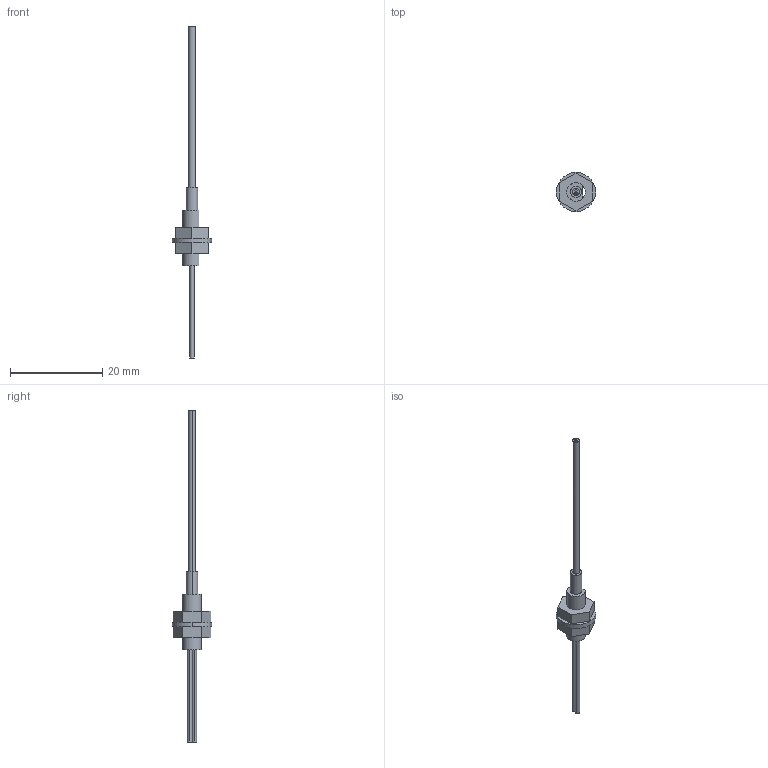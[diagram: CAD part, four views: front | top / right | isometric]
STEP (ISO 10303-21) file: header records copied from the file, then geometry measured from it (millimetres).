
FILE_DESCRIPTION (( 'STEP AP203' ), '1' );
FILE_NAME ('FD-W44.STEP', '2005-09-05T06:56:58', ( '' ), ( '' ), 'SwSTEP 2.0', 'SolidWorks 2004073', '' );
FILE_SCHEMA (( 'CONFIG_CONTROL_DESIGN' ));
Length unit declared in the file: millimetre
Products named in the file (1): FD-W44
Bounding box: 8.5 x 8.5 x 72 mm (x, y, z)
Volume: 443.6 mm3; surface area: 923 mm2
Topology: 4 solids, 4 shells, 48 faces, 102 edges, 68 vertices
Faces by surface type: plane 27, cylinder 21
Entity records: 1391 total; most frequent: DIRECTION 242, CARTESIAN_POINT 219, ORIENTED_EDGE 204, EDGE_CURVE 102, AXIS2_PLACEMENT_3D 91, VERTEX_POINT 68, EDGE_LOOP 60, LINE 60
